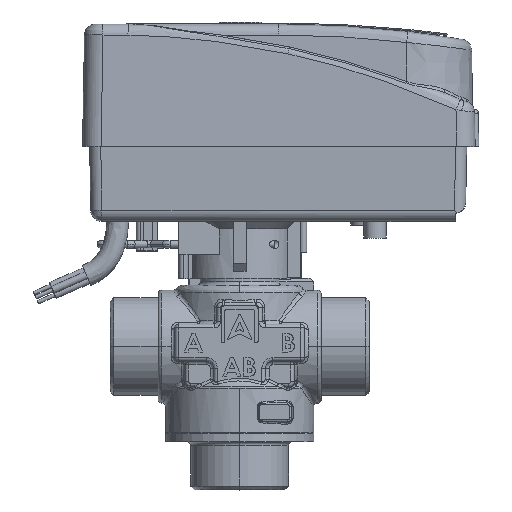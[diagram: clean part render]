
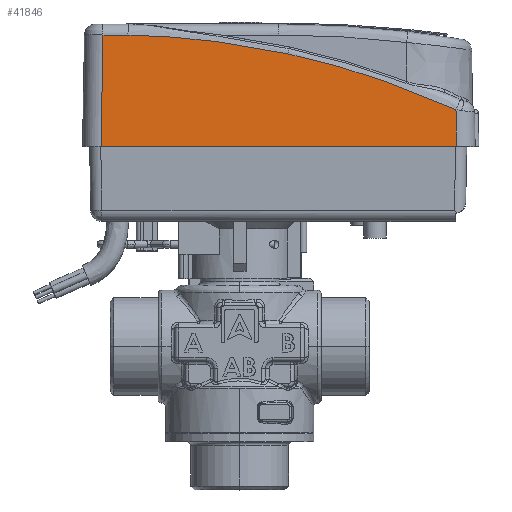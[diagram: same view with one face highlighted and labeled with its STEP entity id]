
A CAD part, top view. The second image highlights one B-rep face of the part: STEP entity #41846.
In plain terms, the highlighted planar face has unit normal (0, 0.018, 1).
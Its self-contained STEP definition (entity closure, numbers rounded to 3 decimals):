
#15 = CARTESIAN_POINT ( 'NONE',  ( 58.46, 60.646, 26.93 ) ) ;
#822 = EDGE_CURVE ( 'NONE', #31366, #71464, #39424, .T. ) ;
#1437 = CARTESIAN_POINT ( 'NONE',  ( 36.289, 72.614, 26.721 ) ) ;
#2407 = LINE ( 'NONE', #47594, #48433 ) ;
#3140 = AXIS2_PLACEMENT_3D ( 'NONE', #36309, #42955, #12276 ) ;
#6834 = CARTESIAN_POINT ( 'NONE',  ( 36.528, 72.535, 26.723 ) ) ;
#7652 = EDGE_CURVE ( 'NONE', #15013, #77505, #46347, .T. ) ;
#11576 = EDGE_CURVE ( 'NONE', #77505, #31366, #75734, .T. ) ;
#11593 = CARTESIAN_POINT ( 'NONE',  ( -30.157, 84.076, 26.521 ) ) ;
#12078 = CARTESIAN_POINT ( 'NONE',  ( 58.517, 57.335, 26.988 ) ) ;
#12276 = DIRECTION ( 'NONE',  ( 0., -1., 0.017 ) ) ;
#15013 = VERTEX_POINT ( 'NONE', #41252 ) ;
#15296 = DIRECTION ( 'NONE',  ( 0.017, 1., -0.017 ) ) ;
#16882 = ORIENTED_EDGE ( 'NONE', *, *, #35401, .T. ) ;
#17656 = PLANE ( 'NONE',  #3140 ) ;
#17784 = CARTESIAN_POINT ( 'NONE',  ( -1.232, 81.719, 26.562 ) ) ;
#22318 = LINE ( 'NONE', #53436, #27763 ) ;
#24080 = CARTESIAN_POINT ( 'NONE',  ( 58.402, 63.958, 26.872 ) ) ;
#25064 = CARTESIAN_POINT ( 'NONE',  ( 58.402, 63.958, 26.872 ) ) ;
#26597 = EDGE_CURVE ( 'NONE', #15013, #65083, #2407, .T. ) ;
#27763 = VECTOR ( 'NONE', #73795, 1000. ) ;
#31366 = VERTEX_POINT ( 'NONE', #53073 ) ;
#31457 = CARTESIAN_POINT ( 'NONE',  ( -22.895, 83.923, 26.524 ) ) ;
#32828 = FACE_OUTER_BOUND ( 'NONE', #52355, .T. ) ;
#33352 = CARTESIAN_POINT ( 'NONE',  ( 58.402, 63.958, 26.872 ) ) ;
#35276 = CARTESIAN_POINT ( 'NONE',  ( -36.902, 84.076, 26.521 ) ) ;
#35401 = EDGE_CURVE ( 'NONE', #71464, #55373, #22318, .T. ) ;
#36309 = CARTESIAN_POINT ( 'NONE',  ( 64.705, 54.024, 27.046 ) ) ;
#37964 = CARTESIAN_POINT ( 'NONE',  ( 20.81, 77.292, 26.639 ) ) ;
#39424 = B_SPLINE_CURVE_WITH_KNOTS ( 'NONE', 3,
 ( #43092, #81707, #17784, #74252, #31457, #11593 ),
 .UNSPECIFIED., .F., .F.,
 ( 4, 2, 4 ),
 ( 0., 0.5, 1. ),
 .UNSPECIFIED. ) ;
#41252 = CARTESIAN_POINT ( 'NONE',  ( 58.575, 54.024, 27.046 ) ) ;
#41846 = ADVANCED_FACE ( 'Defeatured_0_807', ( #32828 ), #17656, .T. ) ;
#42328 = ORIENTED_EDGE ( 'NONE', *, *, #69239, .F. ) ;
#42955 = DIRECTION ( 'NONE',  ( 0., 0.017, 1. ) ) ;
#43092 = CARTESIAN_POINT ( 'NONE',  ( 13.022, 78.982, 26.61 ) ) ;
#46001 = LINE ( 'NONE', #65067, #66376 ) ;
#46347 = B_SPLINE_CURVE_WITH_KNOTS ( 'NONE', 3,
 ( #50579, #12078, #15, #24080 ),
 .UNSPECIFIED., .F., .F.,
 ( 4, 4 ),
 ( 0., 1. ),
 .UNSPECIFIED. ) ;
#47594 = CARTESIAN_POINT ( 'NONE',  ( 10.574, 54.024, 27.046 ) ) ;
#48433 = VECTOR ( 'NONE', #72940, 1000. ) ;
#50579 = CARTESIAN_POINT ( 'NONE',  ( 58.575, 54.024, 27.046 ) ) ;
#50783 = CARTESIAN_POINT ( 'NONE',  ( 39.371, 71.57, 26.739 ) ) ;
#51192 = CARTESIAN_POINT ( 'NONE',  ( 49.225, 67.943, 26.803 ) ) ;
#52137 = ORIENTED_EDGE ( 'NONE', *, *, #26597, .F. ) ;
#52355 = EDGE_LOOP ( 'NONE', ( #63692, #75677, #74269, #16882, #42328, #52137 ) ) ;
#53073 = CARTESIAN_POINT ( 'NONE',  ( 13.022, 78.982, 26.61 ) ) ;
#53436 = CARTESIAN_POINT ( 'NONE',  ( 64.705, 84.076, 26.521 ) ) ;
#55373 = VERTEX_POINT ( 'NONE', #35276 ) ;
#57054 = CARTESIAN_POINT ( 'NONE',  ( 37.714, 72.136, 26.729 ) ) ;
#57284 = CARTESIAN_POINT ( 'NONE',  ( -37.426, 54.024, 27.046 ) ) ;
#57439 = CARTESIAN_POINT ( 'NONE',  ( 37.002, 72.376, 26.725 ) ) ;
#58662 = CARTESIAN_POINT ( 'NONE',  ( 28.487, 75.195, 26.676 ) ) ;
#63248 = CARTESIAN_POINT ( 'NONE',  ( 13.022, 78.982, 26.61 ) ) ;
#63692 = ORIENTED_EDGE ( 'NONE', *, *, #7652, .T. ) ;
#65067 = CARTESIAN_POINT ( 'NONE',  ( -37.427, 54.007, 27.046 ) ) ;
#65083 = VERTEX_POINT ( 'NONE', #57284 ) ;
#66376 = VECTOR ( 'NONE', #15296, 1000. ) ;
#69239 = EDGE_CURVE ( 'NONE', #65083, #55373, #46001, .T. ) ;
#70326 = CARTESIAN_POINT ( 'NONE',  ( 54.754, 65.611, 26.843 ) ) ;
#71464 = VERTEX_POINT ( 'NONE', #79977 ) ;
#72940 = DIRECTION ( 'NONE',  ( -1., 0., 0. ) ) ;
#73795 = DIRECTION ( 'NONE',  ( -1., 0., 0. ) ) ;
#74252 = CARTESIAN_POINT ( 'NONE',  ( -15.658, 83.421, 26.532 ) ) ;
#74269 = ORIENTED_EDGE ( 'NONE', *, *, #822, .T. ) ;
#75677 = ORIENTED_EDGE ( 'NONE', *, *, #11576, .T. ) ;
#75734 = B_SPLINE_CURVE_WITH_KNOTS ( 'NONE', 3,
 ( #33352, #70326, #51192, #76177, #50783, #57054, #57439, #6834, #1437, #58662, #37964, #63248 ),
 .UNSPECIFIED., .F., .F.,
 ( 4, 1, 1, 1, 1, 2, 2, 4 ),
 ( 0., 0.25, 0.375, 0.438, 0.469, 0.484, 0.5, 1. ),
 .UNSPECIFIED. ) ;
#76177 = CARTESIAN_POINT ( 'NONE',  ( 42.673, 70.404, 26.76 ) ) ;
#77505 = VERTEX_POINT ( 'NONE', #25064 ) ;
#79977 = CARTESIAN_POINT ( 'NONE',  ( -30.157, 84.076, 26.521 ) ) ;
#81707 = CARTESIAN_POINT ( 'NONE',  ( 5.924, 80.523, 26.583 ) ) ;
